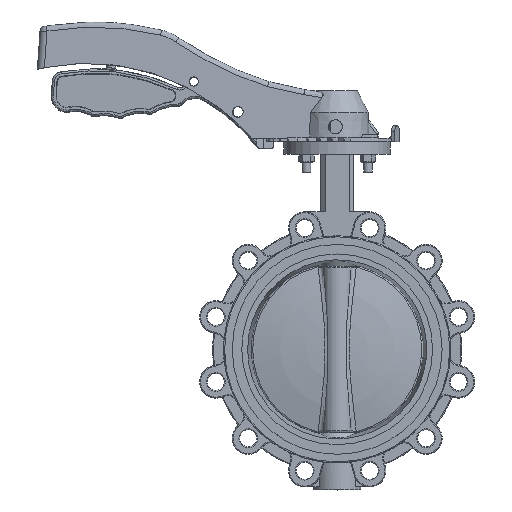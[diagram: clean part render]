
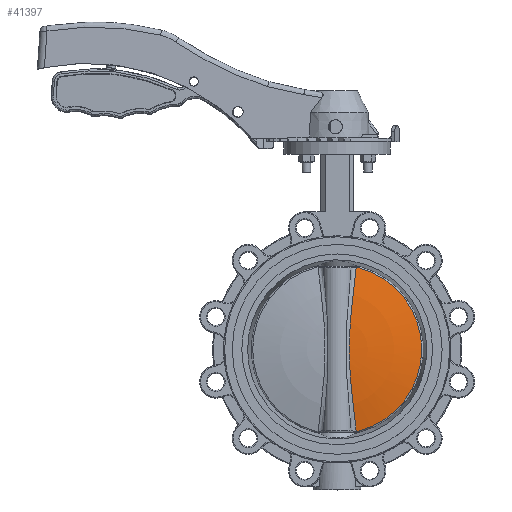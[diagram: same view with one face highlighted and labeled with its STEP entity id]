
A CAD part, top view. The second image highlights one B-rep face of the part: STEP entity #41397.
In plain terms, the highlighted toroidal (fillet/blend) face has major radius 8.167 mm and minor radius 434.495 mm.
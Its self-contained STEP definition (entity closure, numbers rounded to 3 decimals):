
#134 = CIRCLE ( 'NONE', #10329, 99.224 ) ;
#338 = CARTESIAN_POINT ( 'NONE',  ( 17.967, -163.844, 4.068 ) ) ;
#916 = FACE_OUTER_BOUND ( 'NONE', #14811, .T. ) ;
#4288 = CARTESIAN_POINT ( 'NONE',  ( 10.388, -88.254, 13.261 ) ) ;
#5103 = CARTESIAN_POINT ( 'NONE',  ( 14.337, -3.563, 9.66 ) ) ;
#6973 = DIRECTION ( 'NONE',  ( 0., 0., -1. ) ) ;
#9795 = CARTESIAN_POINT ( 'NONE',  ( 17.967, 28.166, 4.068 ) ) ;
#10329 = AXIS2_PLACEMENT_3D ( 'NONE', #61150, #13305, #37600 ) ;
#10669 = CARTESIAN_POINT ( 'NONE',  ( 10.8, -39.64, 12.94 ) ) ;
#11492 = CARTESIAN_POINT ( 'NONE',  ( 11.744, -27.568, 12.167 ) ) ;
#11894 = CARTESIAN_POINT ( 'NONE',  ( 11.032, -100.33, 12.759 ) ) ;
#13305 = DIRECTION ( 'NONE',  ( 0., 0., 1. ) ) ;
#13655 = EDGE_CURVE ( 'NONE', #15319, #46260, #18124, .T. ) ;
#14811 = EDGE_LOOP ( 'NONE', ( #17087, #38947, #50035, #19024 ) ) ;
#15319 = VERTEX_POINT ( 'NONE', #65569 ) ;
#16235 = CARTESIAN_POINT ( 'NONE',  ( 20.705, -163.845, 3.928 ) ) ;
#16256 = CARTESIAN_POINT ( 'NONE',  ( 12.128, -23.556, 11.834 ) ) ;
#17040 = CARTESIAN_POINT ( 'NONE',  ( 10.242, -84.218, 13.373 ) ) ;
#17087 = ORIENTED_EDGE ( 'NONE', *, *, #64163, .T. ) ;
#18124 = B_SPLINE_CURVE_WITH_KNOTS ( 'NONE', 3,
 ( #338, #37011, #36619, #53405 ),
 .UNSPECIFIED., .F., .F.,
 ( 4, 4 ),
 ( 0., 0.003 ),
 .UNSPECIFIED. ) ;
#18974 = EDGE_CURVE ( 'NONE', #46260, #38263, #134, .T. ) ;
#19024 = ORIENTED_EDGE ( 'NONE', *, *, #54187, .T. ) ;
#22187 = CARTESIAN_POINT ( 'NONE',  ( 17.162, -155.958, 5.741 ) ) ;
#25726 = AXIS2_PLACEMENT_3D ( 'NONE', #68732, #6973, #32354 ) ;
#25909 = B_SPLINE_CURVE_WITH_KNOTS ( 'NONE', 3,
 ( #52923, #52519, #54114, #5103, #58883, #16256, #11492, #35731, #10669, #36120, #59710, #47358, #76858, #46961, #71251, #17040, #4288, #11894, #34545, #60084, #59313, #64863, #22187, #28546 ),
 .UNSPECIFIED., .F., .F.,
 ( 4, 2, 2, 2, 2, 2, 2, 2, 2, 2, 2, 4 ),
 ( 0.001, 0.025, 0.049, 0.061, 0.074, 0.086, 0.098, 0.11, 0.122, 0.147, 0.171, 0.195 ),
 .UNSPECIFIED. ) ;
#28546 = CARTESIAN_POINT ( 'NONE',  ( 17.967, -163.844, 4.068 ) ) ;
#32354 = DIRECTION ( 'NONE',  ( -1., 0., 0. ) ) ;
#34430 = CARTESIAN_POINT ( 'NONE',  ( 17.967, 28.166, 4.068 ) ) ;
#34545 = CARTESIAN_POINT ( 'NONE',  ( 11.733, -108.336, 12.206 ) ) ;
#35622 = CARTESIAN_POINT ( 'NONE',  ( 19.793, 28.166, 3.978 ) ) ;
#35731 = CARTESIAN_POINT ( 'NONE',  ( 11.08, -35.61, 12.72 ) ) ;
#36120 = CARTESIAN_POINT ( 'NONE',  ( 10.375, -47.721, 13.27 ) ) ;
#36619 = CARTESIAN_POINT ( 'NONE',  ( 19.793, -163.845, 3.978 ) ) ;
#37011 = CARTESIAN_POINT ( 'NONE',  ( 18.88, -163.844, 4.024 ) ) ;
#37600 = DIRECTION ( 'NONE',  ( -1., 0., 0. ) ) ;
#38263 = VERTEX_POINT ( 'NONE', #44358 ) ;
#38947 = ORIENTED_EDGE ( 'NONE', *, *, #13655, .T. ) ;
#41397 = ADVANCED_FACE ( 'NONE', ( #916 ), #51183, .T. ) ;
#44358 = CARTESIAN_POINT ( 'NONE',  ( 20.705, 28.166, 3.928 ) ) ;
#46260 = VERTEX_POINT ( 'NONE', #16235 ) ;
#46961 = CARTESIAN_POINT ( 'NONE',  ( 10.065, -72.069, 13.531 ) ) ;
#47358 = CARTESIAN_POINT ( 'NONE',  ( 10.078, -59.891, 13.511 ) ) ;
#50035 = ORIENTED_EDGE ( 'NONE', *, *, #18974, .T. ) ;
#51183 = TOROIDAL_SURFACE ( 'NONE', #25726, 8.167, 434.495 ) ;
#52519 = CARTESIAN_POINT ( 'NONE',  ( 17.162, 20.273, 5.743 ) ) ;
#52923 = CARTESIAN_POINT ( 'NONE',  ( 17.967, 28.166, 4.068 ) ) ;
#53405 = CARTESIAN_POINT ( 'NONE',  ( 20.705, -163.845, 3.928 ) ) ;
#54114 = CARTESIAN_POINT ( 'NONE',  ( 16.229, 12.354, 7.197 ) ) ;
#54187 = EDGE_CURVE ( 'NONE', #38263, #55016, #70601, .T. ) ;
#55016 = VERTEX_POINT ( 'NONE', #9795 ) ;
#58883 = CARTESIAN_POINT ( 'NONE',  ( 13.377, -11.543, 10.665 ) ) ;
#59313 = CARTESIAN_POINT ( 'NONE',  ( 14.35, -132.223, 9.644 ) ) ;
#59598 = CARTESIAN_POINT ( 'NONE',  ( 18.88, 28.166, 4.024 ) ) ;
#59710 = CARTESIAN_POINT ( 'NONE',  ( 10.232, -51.775, 13.381 ) ) ;
#60084 = CARTESIAN_POINT ( 'NONE',  ( 13.394, -124.282, 10.648 ) ) ;
#61150 = CARTESIAN_POINT ( 'NONE',  ( -4.361, -67.839, 3.928 ) ) ;
#64163 = EDGE_CURVE ( 'NONE', #55016, #15319, #25909, .T. ) ;
#64863 = CARTESIAN_POINT ( 'NONE',  ( 16.233, -148.061, 7.191 ) ) ;
#65569 = CARTESIAN_POINT ( 'NONE',  ( 17.967, -163.844, 4.068 ) ) ;
#68732 = CARTESIAN_POINT ( 'NONE',  ( -4.361, -67.839, -420.918 ) ) ;
#70601 = B_SPLINE_CURVE_WITH_KNOTS ( 'NONE', 3,
 ( #72762, #35622, #59598, #34430 ),
 .UNSPECIFIED., .F., .F.,
 ( 4, 4 ),
 ( 0., 0.003 ),
 .UNSPECIFIED. ) ;
#71251 = CARTESIAN_POINT ( 'NONE',  ( 10.081, -76.125, 13.508 ) ) ;
#72762 = CARTESIAN_POINT ( 'NONE',  ( 20.705, 28.166, 3.928 ) ) ;
#76858 = CARTESIAN_POINT ( 'NONE',  ( 10.063, -63.95, 13.532 ) ) ;
